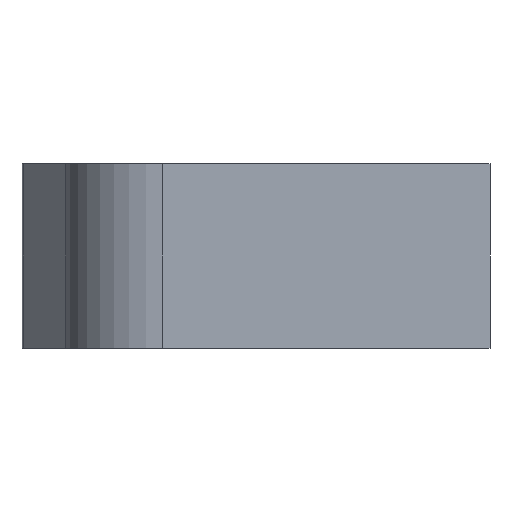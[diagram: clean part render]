
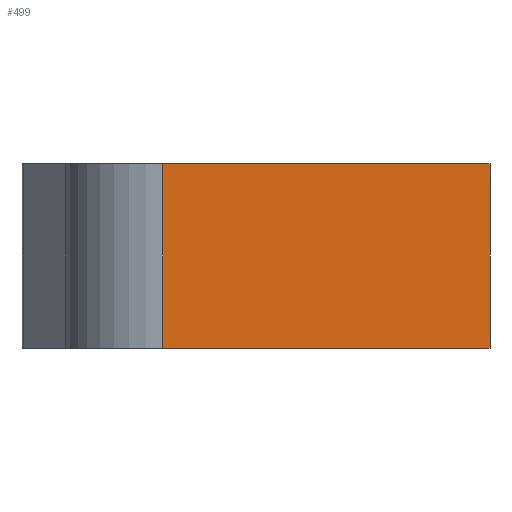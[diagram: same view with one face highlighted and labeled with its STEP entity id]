
A CAD part, left-side view. The second image highlights one B-rep face of the part: STEP entity #499.
In plain terms, the highlighted planar face has unit normal (-1, 0, 0).
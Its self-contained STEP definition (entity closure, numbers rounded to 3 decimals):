
#48 = CARTESIAN_POINT ( 'NONE',  ( -5.994, 61.987, 0. ) ) ;
#49 = CARTESIAN_POINT ( 'NONE',  ( -5.994, 0., 35.052 ) ) ;
#76 = ORIENTED_EDGE ( 'NONE', *, *, #622, .T. ) ;
#116 = CARTESIAN_POINT ( 'NONE',  ( -5.994, 0., 0. ) ) ;
#147 = FACE_OUTER_BOUND ( 'NONE', #471, .T. ) ;
#164 = VECTOR ( 'NONE', #439, 1000. ) ;
#234 = ORIENTED_EDGE ( 'NONE', *, *, #728, .F. ) ;
#293 = PLANE ( 'NONE',  #335 ) ;
#301 = CARTESIAN_POINT ( 'NONE',  ( -5.994, 0., 35.052 ) ) ;
#315 = DIRECTION ( 'NONE',  ( 0., -1., 0. ) ) ;
#335 = AXIS2_PLACEMENT_3D ( 'NONE', #678, #666, #478 ) ;
#378 = CARTESIAN_POINT ( 'NONE',  ( -5.994, 0., 35.052 ) ) ;
#380 = CARTESIAN_POINT ( 'NONE',  ( -5.994, 0., 0. ) ) ;
#389 = LINE ( 'NONE', #49, #710 ) ;
#413 = VERTEX_POINT ( 'NONE', #732 ) ;
#421 = ORIENTED_EDGE ( 'NONE', *, *, #595, .F. ) ;
#422 = ORIENTED_EDGE ( 'NONE', *, *, #584, .T. ) ;
#426 = VECTOR ( 'NONE', #509, 1000. ) ;
#439 = DIRECTION ( 'NONE',  ( 0., 0., -1. ) ) ;
#471 = EDGE_LOOP ( 'NONE', ( #76, #421, #234, #422 ) ) ;
#478 = DIRECTION ( 'NONE',  ( 0., 0., -1. ) ) ;
#493 = LINE ( 'NONE', #380, #766 ) ;
#499 = ADVANCED_FACE ( 'NONE', ( #147 ), #293, .F. ) ;
#509 = DIRECTION ( 'NONE',  ( 0., 0., -1. ) ) ;
#514 = LINE ( 'NONE', #772, #164 ) ;
#539 = VERTEX_POINT ( 'NONE', #116 ) ;
#555 = VERTEX_POINT ( 'NONE', #48 ) ;
#575 = DIRECTION ( 'NONE',  ( 0., -1., 0. ) ) ;
#584 = EDGE_CURVE ( 'NONE', #413, #555, #514, .T. ) ;
#595 = EDGE_CURVE ( 'NONE', #735, #539, #690, .T. ) ;
#622 = EDGE_CURVE ( 'NONE', #555, #539, #493, .T. ) ;
#666 = DIRECTION ( 'NONE',  ( 1., 0., 0. ) ) ;
#678 = CARTESIAN_POINT ( 'NONE',  ( -5.994, 0., 35.052 ) ) ;
#690 = LINE ( 'NONE', #378, #426 ) ;
#710 = VECTOR ( 'NONE', #315, 1000. ) ;
#728 = EDGE_CURVE ( 'NONE', #413, #735, #389, .T. ) ;
#732 = CARTESIAN_POINT ( 'NONE',  ( -5.994, 61.987, 35.052 ) ) ;
#735 = VERTEX_POINT ( 'NONE', #301 ) ;
#766 = VECTOR ( 'NONE', #575, 1000. ) ;
#772 = CARTESIAN_POINT ( 'NONE',  ( -5.994, 61.987, 35.052 ) ) ;
